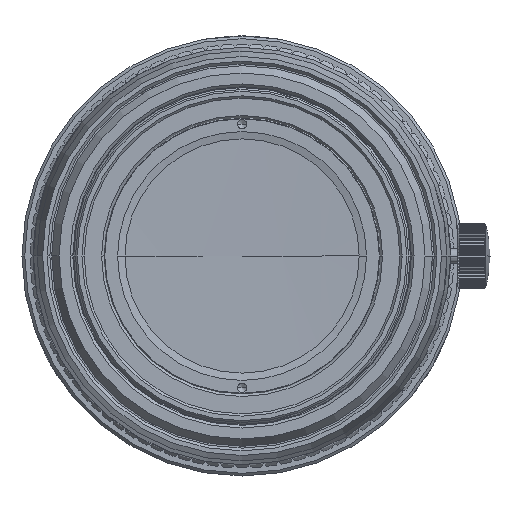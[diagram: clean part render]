
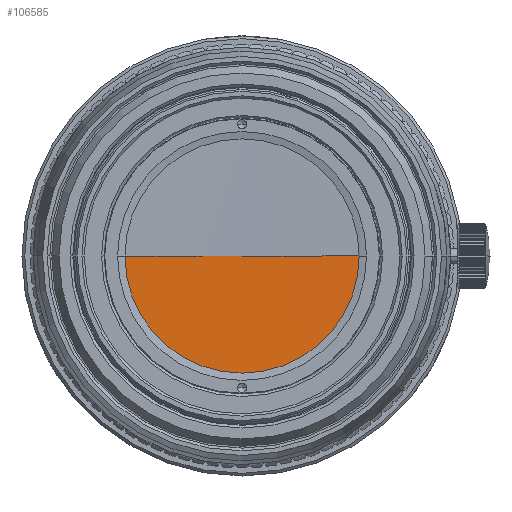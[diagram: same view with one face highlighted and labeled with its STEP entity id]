
A CAD part, left-side view. The second image highlights one B-rep face of the part: STEP entity #106585.
In plain terms, the highlighted spherical face has radius 596.922 mm.
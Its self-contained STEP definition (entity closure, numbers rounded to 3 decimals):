
#106383=CARTESIAN_POINT('',(-638.749,0.,0.));
#106384=DIRECTION('',(0.,0.,-1.));
#106385=DIRECTION('',(1.,0.,0.));
#106386=AXIS2_PLACEMENT_3D('',#106383,#106384,#106385);
#106388=CARTESIAN_POINT('',(-41.97,0.,0.));
#106389=DIRECTION('',(1.,0.,0.));
#106390=DIRECTION('',(0.,-1.,0.));
#106391=AXIS2_PLACEMENT_3D('',#106388,#106389,#106390);
#106393=CARTESIAN_POINT('',(-638.749,0.,0.));
#106394=DIRECTION('',(0.,0.,-1.));
#106395=DIRECTION('',(1.,0.022,0.));
#106396=AXIS2_PLACEMENT_3D('',#106393,#106394,#106395);
#106429=CARTESIAN_POINT('',(-41.97,-13.096,
0.));
#106430=VERTEX_POINT('',#106429);
#106431=CARTESIAN_POINT('',(-41.97,13.096,0.));
#106432=VERTEX_POINT('',#106431);
#106433=CARTESIAN_POINT('',(-41.827,0.,0.));
#106434=VERTEX_POINT('',#106433);
#106573=CARTESIAN_POINT('',(-638.749,0.,0.));
#106574=DIRECTION('',(1.,0.,0.));
#106575=DIRECTION('',(0.,1.,0.));
#106576=AXIS2_PLACEMENT_3D('',#106573,#106574,#106575);
#106577=SPHERICAL_SURFACE('',#106576,596.922);
#106579=ORIENTED_EDGE('',*,*,#106578,.T.);
#106580=ORIENTED_EDGE('',*,*,#106567,.T.);
#106582=ORIENTED_EDGE('',*,*,#106581,.T.);
#106583=EDGE_LOOP('',(#106579,#106580,#106582));
#106584=FACE_OUTER_BOUND('',#106583,.F.);
#106387=CIRCLE('',#106386,596.922);
#106392=CIRCLE('',#106391,13.096);
#106397=CIRCLE('',#106396,596.922);
#106567=EDGE_CURVE('',#106430,#106432,#106392,.T.);
#106578=EDGE_CURVE('',#106434,#106430,#106387,.T.);
#106581=EDGE_CURVE('',#106432,#106434,#106397,.T.);
#106585=ADVANCED_FACE('',(#106584),#106577,.F.);
